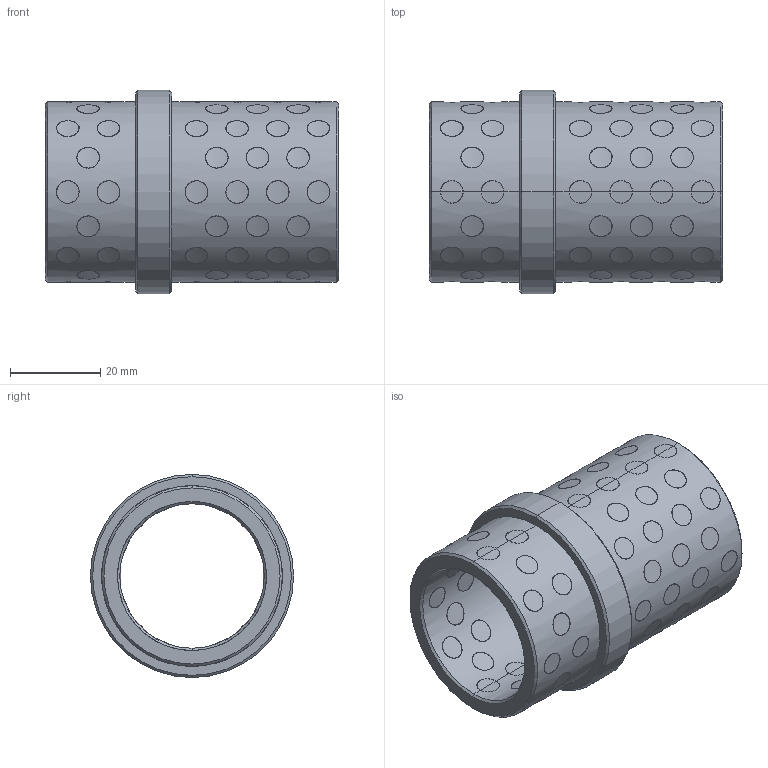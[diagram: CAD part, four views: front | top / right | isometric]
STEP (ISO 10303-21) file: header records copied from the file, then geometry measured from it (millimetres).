
FILE_DESCRIPTION(('CATIA V5 STEP Exchange'),'2;1');
FILE_NAME('C:\Users\Utente\Desktop\3D files G402\G4023245.stp','2020-04-22T08:44:14+00:00',('none'),('none'),'CATIA Version 5 Release 20 GA (IN-10)','CATIA V5 STEP AP203','none');
FILE_SCHEMA(('CONFIG_CONTROL_DESIGN'));
Products named in the file (1): G4023245
Bounding box: 65 x 45 x 45 mm (x, y, z)
Surface area: 26173.6 mm2 (no closed solid volume)
Topology: 0 solids, 528 shells, 528 faces, 2304 edges, 2304 vertices
Faces by surface type: cylinder 512, revolution 12, plane 4
Entity records: 52819 total; most frequent: CARTESIAN_POINT 36878, ORIENTED_EDGE 2304, EDGE_CURVE 2304, VERTEX_POINT 2304, DIRECTION 1867, B_SPLINE_CURVE_WITH_KNOTS 1493, VECTOR 776, LINE 776
